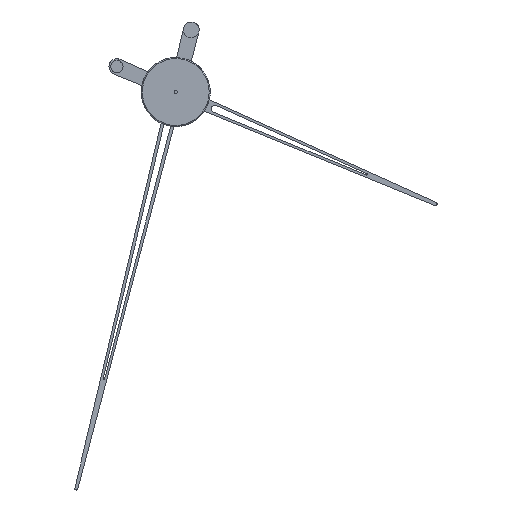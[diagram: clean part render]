
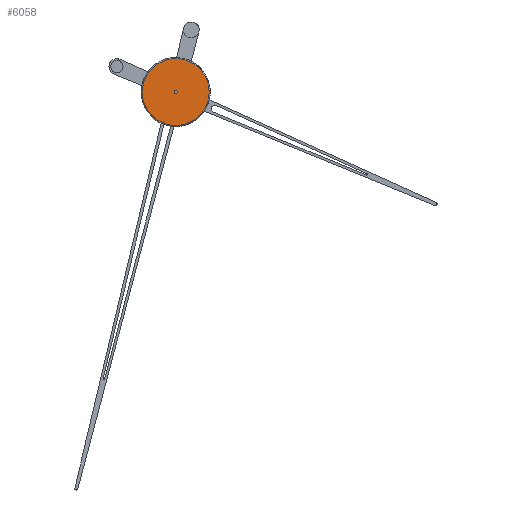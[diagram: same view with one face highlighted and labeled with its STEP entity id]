
A CAD part, front view. The second image highlights one B-rep face of the part: STEP entity #6058.
In plain terms, the highlighted planar face has unit normal (0, -1, 0).
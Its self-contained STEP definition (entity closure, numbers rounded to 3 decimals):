
#2 = ORIENTED_EDGE ( 'NONE', *, *, #1256, .T. ) ;
#692 = DIRECTION ( 'NONE',  ( 0., 0., 1. ) ) ;
#914 = EDGE_LOOP ( 'NONE', ( #2, #2734 ) ) ;
#920 = DIRECTION ( 'NONE',  ( 0., -1., 0. ) ) ;
#998 = DIRECTION ( 'NONE',  ( 0., 0., -1. ) ) ;
#1179 = AXIS2_PLACEMENT_3D ( 'NONE', #2837, #4955, #1950 ) ;
#1206 = VERTEX_POINT ( 'NONE', #3360 ) ;
#1243 = VERTEX_POINT ( 'NONE', #5489 ) ;
#1256 = EDGE_CURVE ( 'NONE', #1796, #2303, #4108, .T. ) ;
#1329 = AXIS2_PLACEMENT_3D ( 'NONE', #1650, #3191, #692 ) ;
#1650 = CARTESIAN_POINT ( 'NONE',  ( 43.3, -19.5, 0. ) ) ;
#1796 = VERTEX_POINT ( 'NONE', #2343 ) ;
#1898 = DIRECTION ( 'NONE',  ( 0., 0., -1. ) ) ;
#1942 = CARTESIAN_POINT ( 'NONE',  ( 43.3, -19.5, 0. ) ) ;
#1950 = DIRECTION ( 'NONE',  ( 0., 0., 1. ) ) ;
#2114 = EDGE_CURVE ( 'NONE', #1243, #1206, #5918, .T. ) ;
#2245 = FACE_BOUND ( 'NONE', #5882, .T. ) ;
#2303 = VERTEX_POINT ( 'NONE', #3203 ) ;
#2343 = CARTESIAN_POINT ( 'NONE',  ( 43.3, -19.5, -42.3 ) ) ;
#2424 = ORIENTED_EDGE ( 'NONE', *, *, #2114, .T. ) ;
#2538 = EDGE_CURVE ( 'NONE', #1206, #1243, #2821, .T. ) ;
#2734 = ORIENTED_EDGE ( 'NONE', *, *, #6492, .T. ) ;
#2821 = CIRCLE ( 'NONE', #3800, 2. ) ;
#2837 = CARTESIAN_POINT ( 'NONE',  ( 1., -19.5, 0. ) ) ;
#3191 = DIRECTION ( 'NONE',  ( 0., 1., 0. ) ) ;
#3203 = CARTESIAN_POINT ( 'NONE',  ( 43.3, -19.5, 42.3 ) ) ;
#3357 = AXIS2_PLACEMENT_3D ( 'NONE', #4587, #6526, #998 ) ;
#3360 = CARTESIAN_POINT ( 'NONE',  ( 43.3, -19.5, -2. ) ) ;
#3438 = FACE_OUTER_BOUND ( 'NONE', #914, .T. ) ;
#3460 = AXIS2_PLACEMENT_3D ( 'NONE', #1942, #920, #1898 ) ;
#3800 = AXIS2_PLACEMENT_3D ( 'NONE', #4533, #4026, #5035 ) ;
#4026 = DIRECTION ( 'NONE',  ( 0., 1., 0. ) ) ;
#4031 = ORIENTED_EDGE ( 'NONE', *, *, #2538, .T. ) ;
#4108 = CIRCLE ( 'NONE', #3460, 42.3 ) ;
#4403 = PLANE ( 'NONE',  #1179 ) ;
#4533 = CARTESIAN_POINT ( 'NONE',  ( 43.3, -19.5, 0. ) ) ;
#4587 = CARTESIAN_POINT ( 'NONE',  ( 43.3, -19.5, 0. ) ) ;
#4955 = DIRECTION ( 'NONE',  ( 0., 1., 0. ) ) ;
#5035 = DIRECTION ( 'NONE',  ( 0., 0., 1. ) ) ;
#5489 = CARTESIAN_POINT ( 'NONE',  ( 43.3, -19.5, 2. ) ) ;
#5523 = CIRCLE ( 'NONE', #3357, 42.3 ) ;
#5882 = EDGE_LOOP ( 'NONE', ( #2424, #4031 ) ) ;
#5918 = CIRCLE ( 'NONE', #1329, 2. ) ;
#6058 = ADVANCED_FACE ( 'NONE', ( #2245, #3438 ), #4403, .F. ) ;
#6492 = EDGE_CURVE ( 'NONE', #2303, #1796, #5523, .T. ) ;
#6526 = DIRECTION ( 'NONE',  ( 0., -1., 0. ) ) ;
